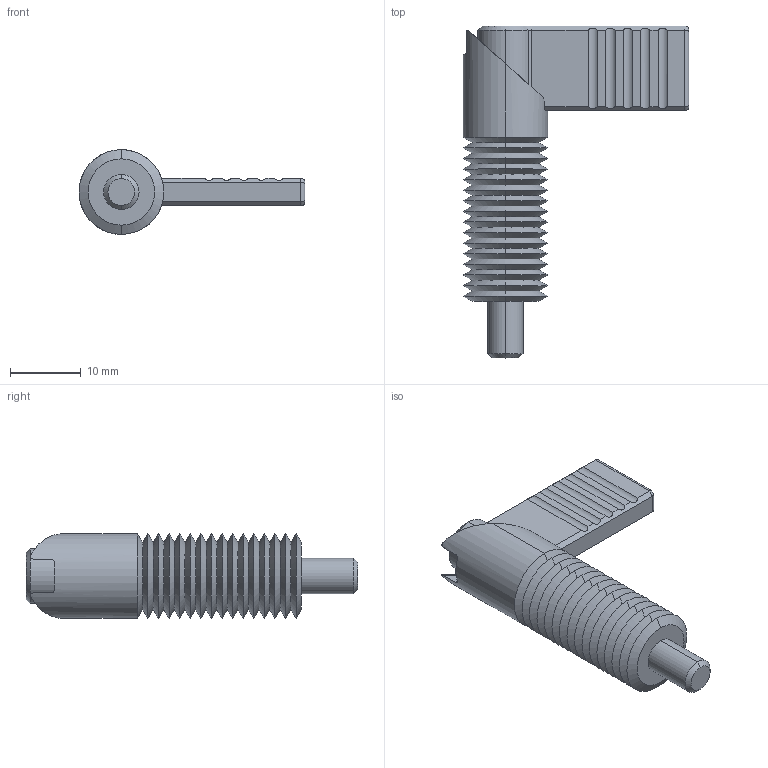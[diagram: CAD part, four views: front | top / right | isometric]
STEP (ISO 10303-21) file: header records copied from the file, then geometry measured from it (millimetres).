
FILE_DESCRIPTION (( 'STEP AP203' ), '1' );
FILE_NAME ('32501.W0323.step', '2016-02-10T17:19:57', ( 'User' ), ( '' ), 'SwSTEP 2.0', 'SolidWorks 2009', '' );
FILE_SCHEMA (( 'CONFIG_CONTROL_DESIGN' ));
Length unit declared in the file: millimetre
Products named in the file (3): 32501.W0323; Part1_32501.W0323; Part2_32501.W0323
Assembly tree (2 placements, depth 2):
  32501.W0323
    Part2_32501.W0323
    Part1_32501.W0323
Bounding box: 32 x 47 x 12 mm (x, y, z)
Volume: 3610.6 mm3; surface area: 4515 mm2
Topology: 2 solids, 2 shells, 143 faces, 320 edges, 184 vertices
Faces by surface type: cone 76, cylinder 40, plane 27
Entity records: 4267 total; most frequent: CARTESIAN_POINT 838, DIRECTION 686, ORIENTED_EDGE 640, EDGE_CURVE 320, AXIS2_PLACEMENT_3D 260, VERTEX_POINT 184, VECTOR 166, LINE 166
